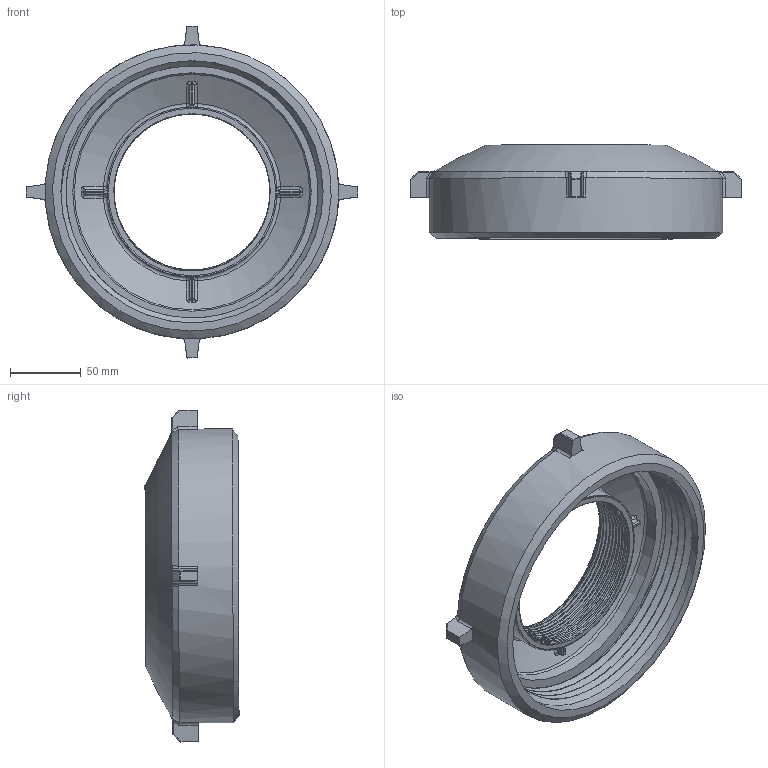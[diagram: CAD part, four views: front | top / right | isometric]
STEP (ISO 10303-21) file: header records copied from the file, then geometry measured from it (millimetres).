
FILE_DESCRIPTION(/* description */ ('Alibre Inc.'),/* implementation_level */ '2;1');
FILE_NAME(/* name */ 'export0',/* time_stamp */ '2016-07-23T09:00:16-04:00',/* author */ (''),/* organization */ (''),/* preprocessor_version */ 'ST-DEVELOPER v14',/* originating_system */ 'Alibre',/* authorisation */ '');
FILE_SCHEMA (('CONFIG_CONTROL_DESIGN'));
Length unit declared in the file: inch
Products named in the file (1): ID_1
Bounding box: 235.24 x 66.64 x 235.28 mm (x, y, z)
Volume: 649354.5 mm3; surface area: 144897 mm2
Topology: 1 solids, 1 shells, 262 faces, 673 edges, 398 vertices
Faces by surface type: bspline 80, cylinder 79, plane 48, cone 32, torus 13, sphere 10
Full cylindrical faces by diameter (mm): 118.66 x1, 120.294 x1, 120.46 x1, 124.968 x1, 169 x1, 185.81 x5, 208.34 x1
Entity records: 47809 total; most frequent: CARTESIAN_POINT 42253, ORIENTED_EDGE 1242, DIRECTION 991, EDGE_CURVE 621, AXIS2_PLACEMENT_3D 437, VERTEX_POINT 381, EDGE_LOOP 274, FACE_BOUND 274
